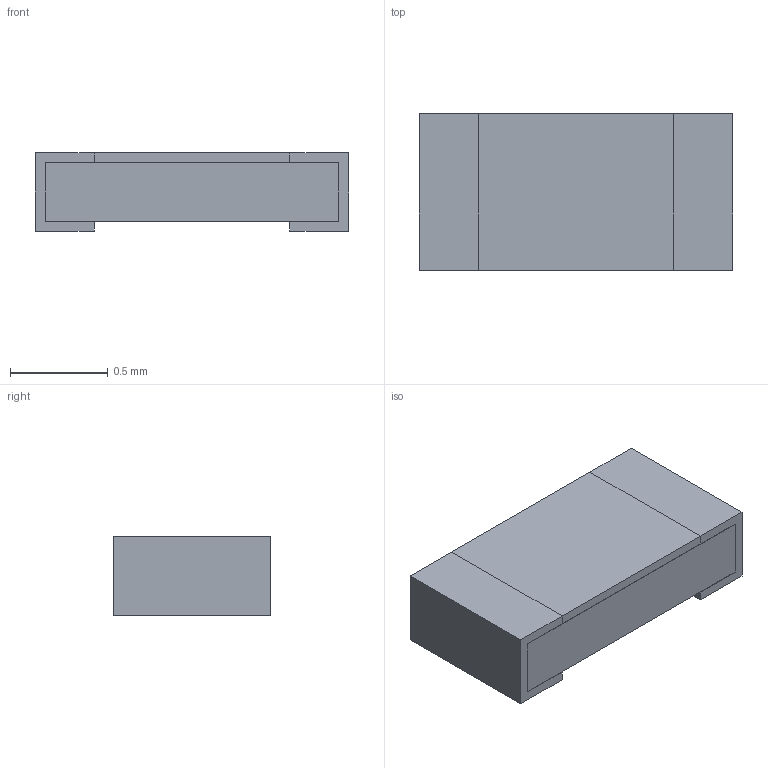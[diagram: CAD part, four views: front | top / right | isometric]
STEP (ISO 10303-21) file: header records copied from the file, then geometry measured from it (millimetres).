
FILE_DESCRIPTION(('STEP AP203'), '1');
FILE_NAME('P1-8B-0603', '', ('UNSPECIFIED'), ('UNSPECIFIED'), 'ASCON STEP Converter 1.6', 'ASCON Math Kernel', '');
FILE_SCHEMA(('CONFIG_CONTROL_DESIGN'));
Length unit declared in the file: millimetre
Bounding box: 1.6 x 0.8 x 0.4 mm (x, y, z)
Volume: 0.5 mm3; surface area: 9 mm2
Topology: 4 solids, 5 shells, 51 faces, 123 edges, 82 vertices
Faces by surface type: plane 47, cylinder 4
Entity records: 1937 total; most frequent: CARTESIAN_POINT 257, ORIENTED_EDGE 246, DIRECTION 235, EDGE_CURVE 123, LINE 115, VECTOR 115, VERTEX_POINT 82, AXIS2_PLACEMENT_3D 60
